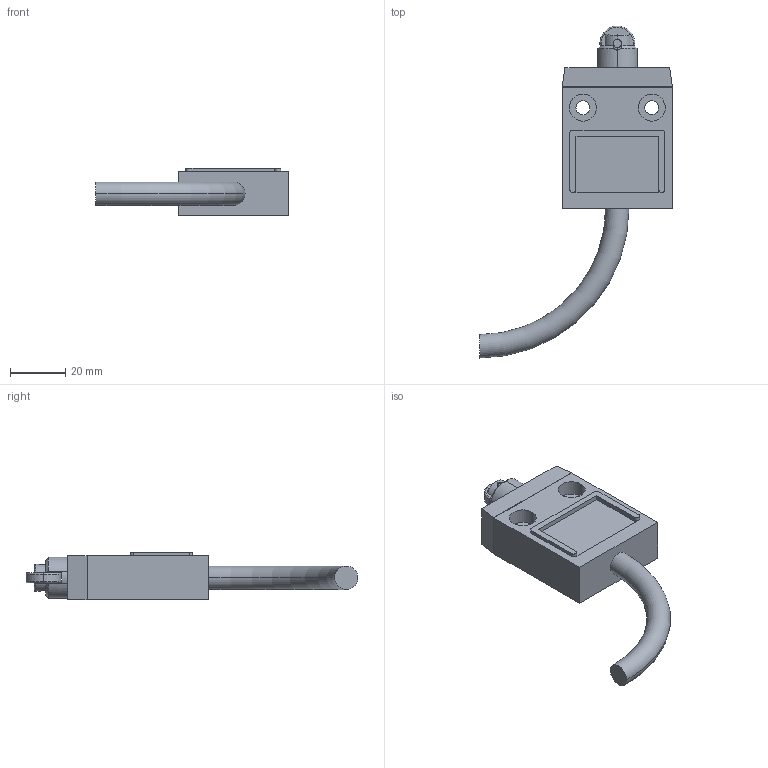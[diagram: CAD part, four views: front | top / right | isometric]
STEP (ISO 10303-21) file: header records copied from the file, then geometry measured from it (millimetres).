
FILE_DESCRIPTION (( 'STEP AP203' ), '1' );
FILE_NAME ('TZ-3102.STEP', '2019-05-24T13:54:17', ( '' ), ( '' ), 'SwSTEP 2.0', 'SolidWorks 2012', '' );
FILE_SCHEMA (( 'CONFIG_CONTROL_DESIGN' ));
Length unit declared in the file: millimetre
Products named in the file (1): TZ-3102
Bounding box: 70 x 120.5 x 17.3 mm (x, y, z)
Volume: 36847 mm3; surface area: 11850.2 mm2
Topology: 1 solids, 1 shells, 155 faces, 399 edges, 263 vertices
Faces by surface type: plane 93, cylinder 45, torus 13, cone 4
Entity records: 5054 total; most frequent: CARTESIAN_POINT 1167, ORIENTED_EDGE 798, DIRECTION 781, EDGE_CURVE 399, AXIS2_PLACEMENT_3D 281, VERTEX_POINT 263, LINE 219, VECTOR 219
